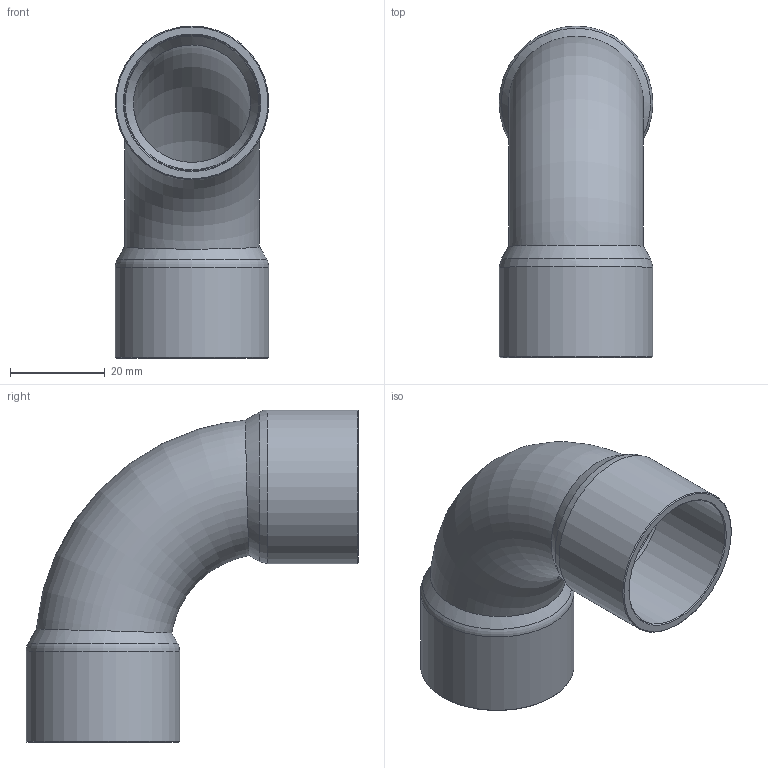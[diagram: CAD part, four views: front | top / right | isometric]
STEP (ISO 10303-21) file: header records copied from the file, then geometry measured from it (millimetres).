
FILE_DESCRIPTION((''),'2;1');
FILE_NAME('G:\SANHA-Ternat\Technik\Management\Bouwmaten + markeringen\z-maattekeningen 3D\29000s\29002A118_3d.stp','2017-07-26T08:57:23',('vdvijverd'),(''),'Autodesk Inventor 2009','Autodesk Inventor 2009','');
FILE_SCHEMA(('AUTOMOTIVE_DESIGN { 1 0 10303 214 1 1 1 1 }'));
Length unit declared in the file: millimetre
Products named in the file (1): 29002A118_3d
Bounding box: 32.52 x 70.26 x 70.26 mm (x, y, z)
Volume: 16025.5 mm3; surface area: 17196.3 mm2
Topology: 1 solids, 1 shells, 20 faces, 38 edges, 20 vertices
Faces by surface type: bspline 8, cone 6, torus 3, cylinder 2, plane 1
Full cylindrical faces by diameter (mm): 28.725 x1, 32.525 x1
Entity records: 742 total; most frequent: CARTESIAN_POINT 412, DIRECTION 58, ORIENTED_EDGE 40, EDGE_LOOP 40, AXIS2_PLACEMENT_3D 29, VERTEX_POINT 20, EDGE_CURVE 20, FACE_OUTER_BOUND 20
